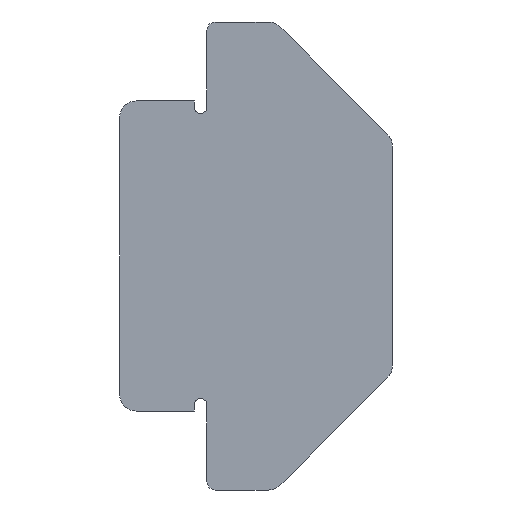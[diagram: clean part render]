
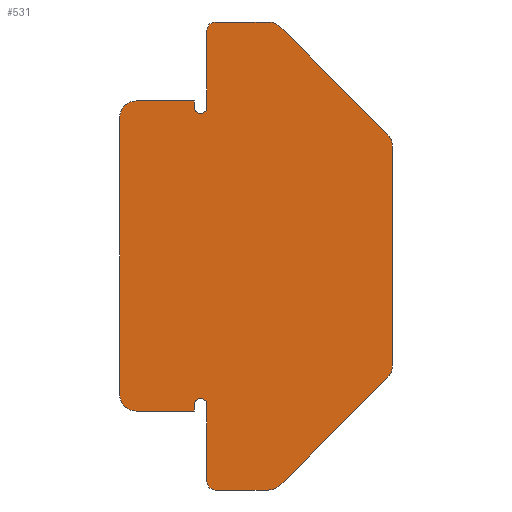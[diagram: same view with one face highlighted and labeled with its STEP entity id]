
A CAD part, left-side view. The second image highlights one B-rep face of the part: STEP entity #531.
In plain terms, the highlighted planar face has unit normal (-1, 0, 0).
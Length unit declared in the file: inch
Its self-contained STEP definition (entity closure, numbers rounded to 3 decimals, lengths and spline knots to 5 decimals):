
#9=CARTESIAN_POINT('',(-1.44,0.2305,0.179));
#10=DIRECTION('',(1.,0.,0.));
#11=DIRECTION('',(0.,-1.,0.));
#12=AXIS2_PLACEMENT_3D('',#9,#10,#11);
#14=DIRECTION('',(0.,0.,-1.));
#15=VECTOR('',#14,0.0925);
#16=CARTESIAN_POINT('',(-1.44,0.223,0.2715));
#17=LINE('',#16,#15);
#18=CARTESIAN_POINT('',(-1.44,0.213,0.2715));
#19=DIRECTION('',(-1.,0.,0.));
#20=DIRECTION('',(0.,0.,1.));
#21=AXIS2_PLACEMENT_3D('',#18,#19,#20);
#23=DIRECTION('',(0.,1.,0.));
#24=VECTOR('',#23,0.06372);
#25=CARTESIAN_POINT('',(-1.44,0.14928,0.2815));
#26=LINE('',#25,#24);
#27=CARTESIAN_POINT('',(-1.44,0.14928,0.2615));
#28=DIRECTION('',(-1.,0.,0.));
#29=DIRECTION('',(0.,-0.707,0.707));
#30=AXIS2_PLACEMENT_3D('',#27,#28,#29);
#32=DIRECTION('',(0.,0.707,0.707));
#33=VECTOR('',#32,0.18284);
#34=CARTESIAN_POINT('',(-1.44,0.00586,0.14636));
#35=LINE('',#34,#33);
#36=CARTESIAN_POINT('',(-1.44,0.02,0.13222));
#37=DIRECTION('',(-1.,0.,0.));
#38=DIRECTION('',(0.,-1.,0.));
#39=AXIS2_PLACEMENT_3D('',#36,#37,#38);
#41=DIRECTION('',(0.,0.,1.));
#42=VECTOR('',#41,0.26443);
#43=CARTESIAN_POINT('',(-1.44,0.,-0.13222));
#44=LINE('',#43,#42);
#45=CARTESIAN_POINT('',(-1.44,0.02,-0.13222));
#46=DIRECTION('',(-1.,0.,0.));
#47=DIRECTION('',(0.,-0.707,-0.707));
#48=AXIS2_PLACEMENT_3D('',#45,#46,#47);
#50=DIRECTION('',(0.,-0.707,0.707));
#51=VECTOR('',#50,0.18284);
#52=CARTESIAN_POINT('',(-1.44,0.13514,-0.27564));
#53=LINE('',#52,#51);
#54=CARTESIAN_POINT('',(-1.44,0.14928,-0.2615));
#55=DIRECTION('',(-1.,0.,0.));
#56=DIRECTION('',(0.,0.,-1.));
#57=AXIS2_PLACEMENT_3D('',#54,#55,#56);
#59=DIRECTION('',(0.,-1.,0.));
#60=VECTOR('',#59,0.06372);
#61=CARTESIAN_POINT('',(-1.44,0.213,-0.2815));
#62=LINE('',#61,#60);
#63=CARTESIAN_POINT('',(-1.44,0.213,-0.2715));
#64=DIRECTION('',(-1.,0.,0.));
#65=DIRECTION('',(0.,1.,0.));
#66=AXIS2_PLACEMENT_3D('',#63,#64,#65);
#68=DIRECTION('',(0.,0.,-1.));
#69=VECTOR('',#68,0.0925);
#70=CARTESIAN_POINT('',(-1.44,0.223,-0.179));
#71=LINE('',#70,#69);
#72=CARTESIAN_POINT('',(-1.44,0.2305,-0.179));
#73=DIRECTION('',(1.,0.,0.));
#74=DIRECTION('',(0.,0.,1.));
#75=AXIS2_PLACEMENT_3D('',#72,#73,#74);
#77=CARTESIAN_POINT('',(-1.44,0.2305,-0.179));
#78=DIRECTION('',(1.,0.,0.));
#79=DIRECTION('',(0.,1.,0.));
#80=AXIS2_PLACEMENT_3D('',#77,#78,#79);
#82=DIRECTION('',(0.,0.,1.));
#83=VECTOR('',#82,0.0075);
#84=CARTESIAN_POINT('',(-1.44,0.238,-0.1865));
#85=LINE('',#84,#83);
#86=DIRECTION('',(0.,-1.,0.));
#87=VECTOR('',#86,0.07);
#88=CARTESIAN_POINT('',(-1.44,0.308,-0.1865));
#89=LINE('',#88,#87);
#90=CARTESIAN_POINT('',(-1.44,0.308,-0.1665));
#91=DIRECTION('',(-1.,0.,0.));
#92=DIRECTION('',(0.,1.,0.));
#93=AXIS2_PLACEMENT_3D('',#90,#91,#92);
#95=DIRECTION('',(0.,0.,-1.));
#96=VECTOR('',#95,0.333);
#97=CARTESIAN_POINT('',(-1.44,0.328,0.1665));
#98=LINE('',#97,#96);
#99=CARTESIAN_POINT('',(-1.44,0.308,0.1665));
#100=DIRECTION('',(-1.,0.,0.));
#101=DIRECTION('',(0.,0.,1.));
#102=AXIS2_PLACEMENT_3D('',#99,#100,#101);
#104=DIRECTION('',(0.,1.,0.));
#105=VECTOR('',#104,0.07);
#106=CARTESIAN_POINT('',(-1.44,0.238,0.1865));
#107=LINE('',#106,#105);
#108=DIRECTION('',(0.,0.,1.));
#109=VECTOR('',#108,0.0075);
#110=CARTESIAN_POINT('',(-1.44,0.238,0.179));
#111=LINE('',#110,#109);
#360=CARTESIAN_POINT('',(-1.44,0.223,0.2715));
#362=VERTEX_POINT('',#360);
#363=CARTESIAN_POINT('',(-1.44,0.,-0.13222));
#364=CARTESIAN_POINT('',(-1.44,0.,0.13222));
#365=VERTEX_POINT('',#363);
#366=VERTEX_POINT('',#364);
#367=CARTESIAN_POINT('',(-1.44,0.13514,-0.27564));
#368=CARTESIAN_POINT('',(-1.44,0.00586,-0.14636));
#369=VERTEX_POINT('',#367);
#370=VERTEX_POINT('',#368);
#381=CARTESIAN_POINT('',(-1.44,0.328,-0.1665));
#382=VERTEX_POINT('',#381);
#385=CARTESIAN_POINT('',(-1.44,0.213,-0.2815));
#386=CARTESIAN_POINT('',(-1.44,0.14928,-0.2815));
#387=VERTEX_POINT('',#385);
#388=VERTEX_POINT('',#386);
#389=CARTESIAN_POINT('',(-1.44,0.2305,-0.1715));
#390=CARTESIAN_POINT('',(-1.44,0.223,-0.179));
#391=VERTEX_POINT('',#389);
#392=VERTEX_POINT('',#390);
#410=CARTESIAN_POINT('',(-1.44,0.00586,0.14636));
#412=VERTEX_POINT('',#410);
#413=CARTESIAN_POINT('',(-1.44,0.238,0.179));
#414=CARTESIAN_POINT('',(-1.44,0.238,0.1865));
#415=VERTEX_POINT('',#413);
#416=VERTEX_POINT('',#414);
#421=CARTESIAN_POINT('',(-1.44,0.308,-0.1865));
#422=VERTEX_POINT('',#421);
#423=CARTESIAN_POINT('',(-1.44,0.238,-0.1865));
#424=VERTEX_POINT('',#423);
#425=CARTESIAN_POINT('',(-1.44,0.223,0.179));
#426=VERTEX_POINT('',#425);
#427=CARTESIAN_POINT('',(-1.44,0.308,0.1865));
#429=VERTEX_POINT('',#427);
#431=CARTESIAN_POINT('',(-1.44,0.238,-0.179));
#432=VERTEX_POINT('',#431);
#437=CARTESIAN_POINT('',(-1.44,0.13514,0.27564));
#438=CARTESIAN_POINT('',(-1.44,0.14928,0.2815));
#439=VERTEX_POINT('',#437);
#440=VERTEX_POINT('',#438);
#443=CARTESIAN_POINT('',(-1.44,0.328,0.1665));
#444=VERTEX_POINT('',#443);
#445=CARTESIAN_POINT('',(-1.44,0.213,0.2815));
#447=VERTEX_POINT('',#445);
#461=CARTESIAN_POINT('',(-1.44,0.223,-0.2715));
#462=VERTEX_POINT('',#461);
#479=CARTESIAN_POINT('',(-1.44,0.2305,0.179));
#480=DIRECTION('',(1.,0.,0.));
#481=DIRECTION('',(0.,0.,-1.));
#482=AXIS2_PLACEMENT_3D('',#479,#480,#481);
#483=PLANE('',#482);
#485=ORIENTED_EDGE('',*,*,#484,.F.);
#487=ORIENTED_EDGE('',*,*,#486,.F.);
#489=ORIENTED_EDGE('',*,*,#488,.F.);
#491=ORIENTED_EDGE('',*,*,#490,.F.);
#493=ORIENTED_EDGE('',*,*,#492,.F.);
#495=ORIENTED_EDGE('',*,*,#494,.F.);
#496=ORIENTED_EDGE('',*,*,#468,.F.);
#498=ORIENTED_EDGE('',*,*,#497,.F.);
#500=ORIENTED_EDGE('',*,*,#499,.F.);
#502=ORIENTED_EDGE('',*,*,#501,.F.);
#504=ORIENTED_EDGE('',*,*,#503,.F.);
#506=ORIENTED_EDGE('',*,*,#505,.F.);
#508=ORIENTED_EDGE('',*,*,#507,.F.);
#510=ORIENTED_EDGE('',*,*,#509,.F.);
#512=ORIENTED_EDGE('',*,*,#511,.F.);
#514=ORIENTED_EDGE('',*,*,#513,.F.);
#516=ORIENTED_EDGE('',*,*,#515,.F.);
#518=ORIENTED_EDGE('',*,*,#517,.F.);
#520=ORIENTED_EDGE('',*,*,#519,.F.);
#522=ORIENTED_EDGE('',*,*,#521,.F.);
#524=ORIENTED_EDGE('',*,*,#523,.F.);
#526=ORIENTED_EDGE('',*,*,#525,.F.);
#528=ORIENTED_EDGE('',*,*,#527,.F.);
#529=EDGE_LOOP('',(#485,#487,#489,#491,#493,#495,#496,#498,#500,#502,#504,#506,
#508,#510,#512,#514,#516,#518,#520,#522,#524,#526,#528));
#530=FACE_OUTER_BOUND('',#529,.F.);
#13=CIRCLE('',#12,0.0075);
#22=CIRCLE('',#21,0.01);
#31=CIRCLE('',#30,0.02);
#40=CIRCLE('',#39,0.02);
#49=CIRCLE('',#48,0.02);
#58=CIRCLE('',#57,0.02);
#67=CIRCLE('',#66,0.01);
#76=CIRCLE('',#75,0.0075);
#81=CIRCLE('',#80,0.0075);
#94=CIRCLE('',#93,0.02);
#103=CIRCLE('',#102,0.02);
#468=EDGE_CURVE('',#366,#412,#40,.T.);
#484=EDGE_CURVE('',#426,#415,#13,.T.);
#486=EDGE_CURVE('',#362,#426,#17,.T.);
#488=EDGE_CURVE('',#447,#362,#22,.T.);
#490=EDGE_CURVE('',#440,#447,#26,.T.);
#492=EDGE_CURVE('',#439,#440,#31,.T.);
#494=EDGE_CURVE('',#412,#439,#35,.T.);
#497=EDGE_CURVE('',#365,#366,#44,.T.);
#499=EDGE_CURVE('',#370,#365,#49,.T.);
#501=EDGE_CURVE('',#369,#370,#53,.T.);
#503=EDGE_CURVE('',#388,#369,#58,.T.);
#505=EDGE_CURVE('',#387,#388,#62,.T.);
#507=EDGE_CURVE('',#462,#387,#67,.T.);
#509=EDGE_CURVE('',#392,#462,#71,.T.);
#511=EDGE_CURVE('',#391,#392,#76,.T.);
#513=EDGE_CURVE('',#432,#391,#81,.T.);
#515=EDGE_CURVE('',#424,#432,#85,.T.);
#517=EDGE_CURVE('',#422,#424,#89,.T.);
#519=EDGE_CURVE('',#382,#422,#94,.T.);
#521=EDGE_CURVE('',#444,#382,#98,.T.);
#523=EDGE_CURVE('',#429,#444,#103,.T.);
#525=EDGE_CURVE('',#416,#429,#107,.T.);
#527=EDGE_CURVE('',#415,#416,#111,.T.);
#531=ADVANCED_FACE('',(#530),#483,.F.);
